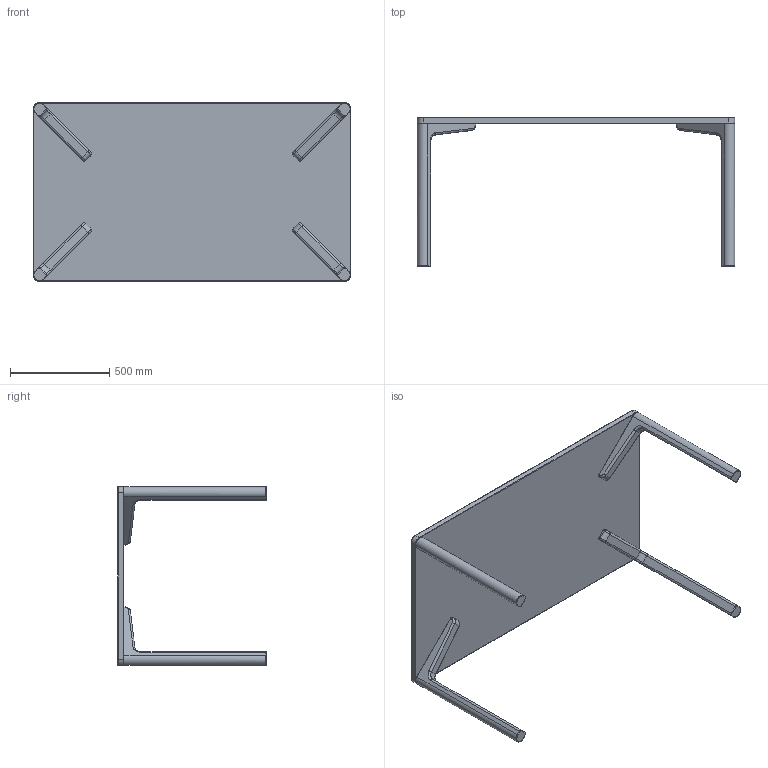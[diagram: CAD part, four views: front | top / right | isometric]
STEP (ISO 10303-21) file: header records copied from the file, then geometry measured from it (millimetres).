
FILE_DESCRIPTION (( 'STEP AP203' ), '1' );
FILE_NAME ('LAVADO TRP. STO.STEP', '2020-07-08T10:11:11', ( '' ), ( '' ), 'SwSTEP 2.0', 'SolidWorks 2020', '' );
FILE_SCHEMA (( 'CONFIG_CONTROL_DESIGN' ));
Length unit declared in the file: millimetre
Products named in the file (4): LAVADO TRP. STO.IGS; Noga^3D Model Lavado.IGS; Ploca^3D Model Lavado.IGS; LAVADO TRP. STO
Assembly tree (6 placements, depth 3):
  LAVADO TRP. STO
    LAVADO TRP. STO.IGS
      Noga^3D Model Lavado.IGS  x4
      Ploca^3D Model Lavado.IGS
Bounding box: 1600 x 750 x 900 mm (x, y, z)
Volume: 55792998.9 mm3; surface area: 3883407.3 mm2
Topology: 5 solids, 5 shells, 158 faces, 348 edges, 200 vertices
Faces by surface type: bspline 158
Entity records: 2407 total; most frequent: CARTESIAN_POINT 1178, ORIENTED_EDGE 258, EDGE_CURVE 129, VERTEX_POINT 74, B_SPLINE_CURVE_WITH_KNOTS 62, FACE_OUTER_BOUND 59, ADVANCED_FACE 59, EDGE_LOOP 59
